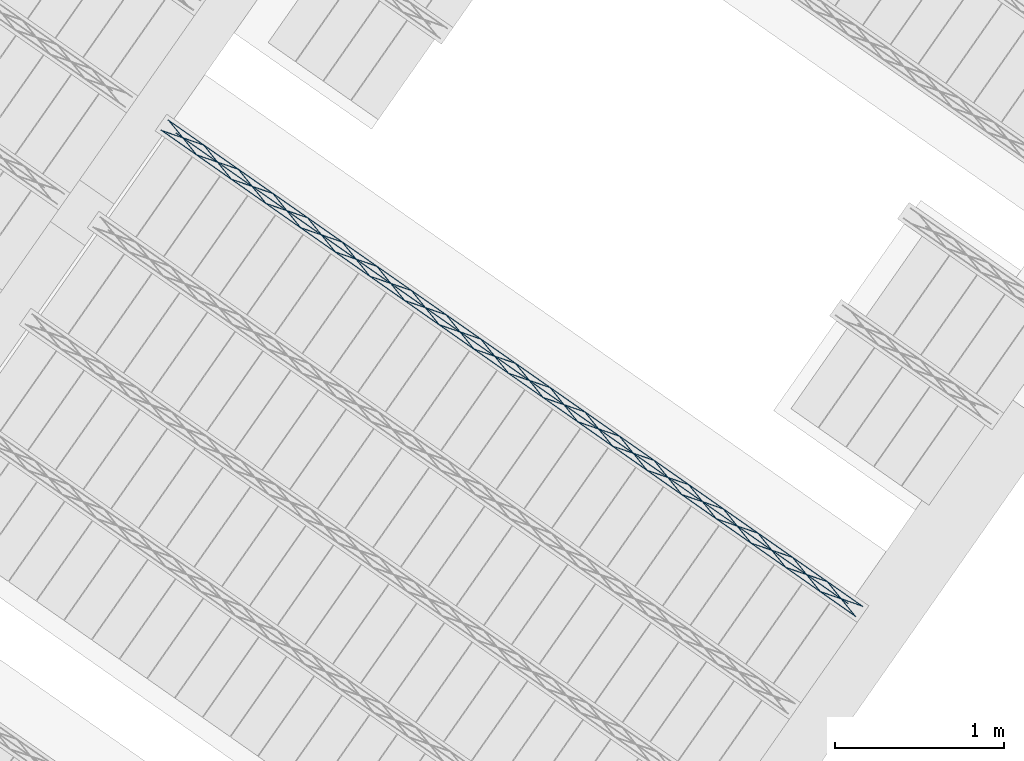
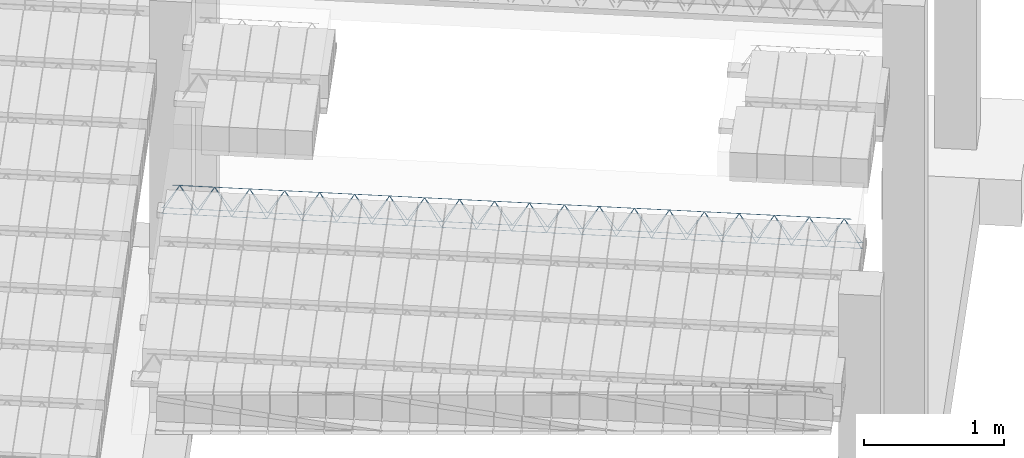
# One storey, part 43 of 80: 1 member.
"""IFC2X3 building model written with IfcOpenShell, lengths in metres."""

from ifc_helpers import new_model, entity, si_unit, converted_unit, derived_unit, direction, frame, origin, origin_2d_with_axis, place, context, subcontext, project, spatial, circle, extrude, type_object, element, save


model = new_model("IFC2X3")

# Units and contexts
model_context = context("Model", 3, precision=1e-05, world=origin(), true_north=direction((6.123031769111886e-17, 1.0)))
body_context = subcontext(model_context, "Body", "Model", "MODEL_VIEW")
ifc_project = project(units=[si_unit("LENGTHUNIT", "METRE"), si_unit("AREAUNIT", "SQUARE_METRE"), si_unit("VOLUMEUNIT", "CUBIC_METRE"), converted_unit("PLANEANGLEUNIT", "DEGREE", entity("IfcPlaneAngleMeasure", 0.017453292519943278), si_unit("PLANEANGLEUNIT", "RADIAN"), dimensions=[0, 0, 0, 0, 0, 0, 0]), si_unit("MASSUNIT", "GRAM", prefix="KILO"), derived_unit("MASSDENSITYUNIT", [(si_unit("MASSUNIT", "GRAM", prefix="KILO"), 1), (si_unit("LENGTHUNIT", "METRE"), -3)]), derived_unit("IONCONCENTRATIONUNIT", [(si_unit("MASSUNIT", "GRAM", prefix="KILO"), 1), (si_unit("LENGTHUNIT", "METRE"), -3)]), derived_unit("MOMENTOFINERTIAUNIT", [(si_unit("LENGTHUNIT", "METRE"), 4)]), si_unit("TIMEUNIT", "SECOND"), si_unit("FREQUENCYUNIT", "HERTZ"), si_unit("THERMODYNAMICTEMPERATUREUNIT", "DEGREE_CELSIUS"), derived_unit("THERMALTRANSMITTANCEUNIT", [(si_unit("MASSUNIT", "GRAM", prefix="KILO"), 1), (si_unit("THERMODYNAMICTEMPERATUREUNIT", "KELVIN"), -1), (si_unit("TIMEUNIT", "SECOND"), -3)]), derived_unit("THERMALCONDUCTANCEUNIT", [(si_unit("MASSUNIT", "GRAM", prefix="KILO"), 1), (si_unit("THERMODYNAMICTEMPERATUREUNIT", "KELVIN"), -1), (si_unit("TIMEUNIT", "SECOND"), -3), (si_unit("LENGTHUNIT", "METRE"), 1)]), derived_unit("VOLUMETRICFLOWRATEUNIT", [(si_unit("LENGTHUNIT", "METRE", prefix="DECI"), 3), (si_unit("TIMEUNIT", "SECOND"), -1)]), derived_unit("MASSFLOWRATEUNIT", [(si_unit("MASSUNIT", "GRAM", prefix="KILO"), 1), (si_unit("TIMEUNIT", "SECOND"), -1)]), derived_unit("ROTATIONALFREQUENCYUNIT", [(si_unit("TIMEUNIT", "SECOND"), -1)]), si_unit("ELECTRICCURRENTUNIT", "AMPERE"), si_unit("ELECTRICVOLTAGEUNIT", "VOLT"), si_unit("POWERUNIT", "WATT"), si_unit("FORCEUNIT", "NEWTON", prefix="KILO"), si_unit("ILLUMINANCEUNIT", "LUX"), si_unit("LUMINOUSFLUXUNIT", "LUMEN"), si_unit("LUMINOUSINTENSITYUNIT", "CANDELA"), si_unit("ENERGYUNIT", "JOULE"), derived_unit("USERDEFINED", [(si_unit("MASSUNIT", "GRAM", prefix="KILO"), -1), (si_unit("LENGTHUNIT", "METRE"), -2), (si_unit("TIMEUNIT", "SECOND"), 3), (si_unit("LUMINOUSFLUXUNIT", "LUMEN"), 1)]), derived_unit("USERDEFINED", [(si_unit("MASSUNIT", "GRAM", prefix="KILO"), 1), (si_unit("TIMEUNIT", "SECOND"), -3), (si_unit("LENGTHUNIT", "METRE"), 3), (si_unit("ELECTRICCURRENTUNIT", "AMPERE"), -2)]), derived_unit("SOUNDPOWERUNIT", [(si_unit("MASSUNIT", "GRAM", prefix="KILO"), 1), (si_unit("TIMEUNIT", "SECOND"), -3), (si_unit("LENGTHUNIT", "METRE"), 2)]), derived_unit("SOUNDPRESSUREUNIT", [(si_unit("MASSUNIT", "GRAM", prefix="KILO"), 1), (si_unit("LENGTHUNIT", "METRE"), -1), (si_unit("TIMEUNIT", "SECOND"), -2)]), derived_unit("LINEARVELOCITYUNIT", [(si_unit("LENGTHUNIT", "METRE"), 1), (si_unit("TIMEUNIT", "SECOND"), -1)]), si_unit("PRESSUREUNIT", "PASCAL"), derived_unit("USERDEFINED", [(si_unit("MASSUNIT", "GRAM", prefix="KILO"), 1), (si_unit("LENGTHUNIT", "METRE"), -2), (si_unit("TIMEUNIT", "SECOND"), -2)]), derived_unit("LINEARFORCEUNIT", [(si_unit("MASSUNIT", "GRAM", prefix="KILO"), 1), (si_unit("TIMEUNIT", "SECOND"), -2)]), derived_unit("PLANARFORCEUNIT", [(si_unit("MASSUNIT", "GRAM", prefix="KILO"), 1), (si_unit("LENGTHUNIT", "METRE"), -1), (si_unit("TIMEUNIT", "SECOND"), -2)]), derived_unit("SPECIFICHEATCAPACITYUNIT", [(si_unit("THERMODYNAMICTEMPERATUREUNIT", "KELVIN"), -1), (si_unit("LENGTHUNIT", "METRE"), 2), (si_unit("TIMEUNIT", "SECOND"), -2)]), derived_unit("HEATFLUXDENSITYUNIT", [(si_unit("MASSUNIT", "GRAM", prefix="KILO"), 1), (si_unit("TIMEUNIT", "SECOND"), -3)]), derived_unit("HEATINGVALUEUNIT", [(si_unit("LENGTHUNIT", "METRE"), 2), (si_unit("TIMEUNIT", "SECOND"), -2)]), derived_unit("VAPORPERMEABILITYUNIT", [(si_unit("LENGTHUNIT", "METRE"), -1), (si_unit("TIMEUNIT", "SECOND"), 1)]), derived_unit("DYNAMICVISCOSITYUNIT", [(si_unit("MASSUNIT", "GRAM", prefix="KILO"), 1), (si_unit("TIMEUNIT", "SECOND"), -1), (si_unit("LENGTHUNIT", "METRE"), -1)]), derived_unit("THERMALEXPANSIONCOEFFICIENTUNIT", [(si_unit("THERMODYNAMICTEMPERATUREUNIT", "KELVIN"), -1)]), derived_unit("MODULUSOFELASTICITYUNIT", [(si_unit("MASSUNIT", "GRAM", prefix="KILO"), 1), (si_unit("LENGTHUNIT", "METRE"), -1), (si_unit("TIMEUNIT", "SECOND"), -2)]), derived_unit("ISOTHERMALMOISTURECAPACITYUNIT", [(si_unit("MASSUNIT", "GRAM", prefix="KILO"), -1), (si_unit("LENGTHUNIT", "METRE"), 3)]), derived_unit("MOISTUREDIFFUSIVITYUNIT", [(si_unit("TIMEUNIT", "SECOND"), -1), (si_unit("LENGTHUNIT", "METRE"), 2)]), derived_unit("MASSPERLENGTHUNIT", [(si_unit("MASSUNIT", "GRAM", prefix="KILO"), 1), (si_unit("LENGTHUNIT", "METRE"), -1)]), derived_unit("THERMALRESISTANCEUNIT", [(si_unit("MASSUNIT", "GRAM", prefix="KILO"), -1), (si_unit("TIMEUNIT", "SECOND"), 3), (si_unit("THERMODYNAMICTEMPERATUREUNIT", "KELVIN"), 1)]), derived_unit("ACCELERATIONUNIT", [(si_unit("LENGTHUNIT", "METRE"), 1), (si_unit("TIMEUNIT", "SECOND"), -2)]), derived_unit("ANGULARVELOCITYUNIT", [(si_unit("TIMEUNIT", "SECOND"), -1), (si_unit("PLANEANGLEUNIT", "RADIAN"), 1)]), derived_unit("LINEARSTIFFNESSUNIT", [(si_unit("MASSUNIT", "GRAM", prefix="KILO"), 1), (si_unit("TIMEUNIT", "SECOND"), -2)]), derived_unit("WARPINGCONSTANTUNIT", [(si_unit("LENGTHUNIT", "METRE"), 6)]), derived_unit("LINEARMOMENTUNIT", [(si_unit("MASSUNIT", "GRAM", prefix="KILO"), 1), (si_unit("LENGTHUNIT", "METRE"), 1), (si_unit("TIMEUNIT", "SECOND"), -2)]), derived_unit("TORQUEUNIT", [(si_unit("MASSUNIT", "GRAM", prefix="KILO"), 1), (si_unit("LENGTHUNIT", "METRE"), 2), (si_unit("TIMEUNIT", "SECOND"), -2)])], contexts=[model_context])

# Site, building, storey
site_placement = place(None, origin())
site = spatial("IfcSite", under=ifc_project, at=site_placement, Name="Default", CompositionType="ELEMENT")
building_placement = place(site_placement, origin())
building = spatial("IfcBuilding", under=site, at=building_placement, CompositionType="ELEMENT")
storey_placement = place(building_placement, frame((0.0, 0.0, 95.94)))
storey = spatial("IfcBuildingStorey", under=building, at=storey_placement, Name="PB", CompositionType="ELEMENT", Elevation=95.94)

# Member
member_type = type_object("IfcMemberType", Name="Celosía (Vigueta 4 - Paño 6)", PredefinedType="NOTDEFINED")
member_placement = place(storey_placement, origin())
element("IfcMember", 1, at=member_placement, inside=storey, type_object=member_type, Name="Celosía (Vigueta 4 - Paño 6)", context=body_context, shape_type="SweptSolid", body=[
    extrude(circle(Radius=0.0025, at=origin_2d_with_axis()), frame((4.563415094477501, 5.501805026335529, 3.3049999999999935), z_axis=(0.8191520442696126, -0.5735764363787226, 0.0), x_axis=(-0.5735764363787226, -0.8191520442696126, 0.0)), (0.0, 0.0, 1.0), 5.017554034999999),
    extrude(circle(Radius=0.0025, at=origin_2d_with_axis()), frame((4.65268996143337, 5.483241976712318, 3.5299999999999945), z_axis=(0.8191520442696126, -0.5735764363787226, 0.0), x_axis=(-0.5735764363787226, -0.8191520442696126, 0.0)), (0.0, 0.0, 1.0), 4.849999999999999),
    extrude(circle(Radius=0.0025, at=origin_2d_with_axis()), frame((8.666365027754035, 2.6288885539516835, 3.3049999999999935), z_axis=(-0.3145304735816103, 0.389334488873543, 0.8657304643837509), x_axis=(-0.7778747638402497, -0.6284193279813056, 0.0)), (0.0, 0.0, 1.0), 0.2598961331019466),
    extrude(circle(Radius=0.0025, at=origin_2d_with_axis()), frame((8.461577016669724, 2.772282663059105, 3.3049999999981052), z_axis=(0.47343050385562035, -0.1624017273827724, 0.8657304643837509), x_axis=(-0.3244721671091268, -0.9458952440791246, 0.0)), (0.0, 0.0, 1.0), 0.25989613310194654),
    extrude(circle(Radius=0.0025, at=origin_2d_with_axis()), frame((8.46157701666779, 2.7722826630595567, 3.3049999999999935), z_axis=(-0.3145304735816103, 0.389334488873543, 0.8657304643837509), x_axis=(-0.7778747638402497, -0.6284193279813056, 0.0)), (0.0, 0.0, 1.0), 0.2598961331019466),
    extrude(circle(Radius=0.0025, at=origin_2d_with_axis()), frame((8.25678900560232, 2.9156767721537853, 3.3049999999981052), z_axis=(0.47343050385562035, -0.1624017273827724, 0.8657304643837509), x_axis=(-0.3244721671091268, -0.9458952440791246, 0.0)), (0.0, 0.0, 1.0), 0.25989613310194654),
    extrude(circle(Radius=0.0025, at=origin_2d_with_axis()), frame((8.256789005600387, 2.9156767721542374, 3.3049999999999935), z_axis=(-0.3145304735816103, 0.389334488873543, 0.8657304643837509), x_axis=(-0.7778747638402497, -0.6284193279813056, 0.0)), (0.0, 0.0, 1.0), 0.2598961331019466),
    extrude(circle(Radius=0.0025, at=origin_2d_with_axis()), frame((8.052000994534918, 3.059070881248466, 3.3049999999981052), z_axis=(0.47343050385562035, -0.1624017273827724, 0.8657304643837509), x_axis=(-0.3244721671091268, -0.9458952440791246, 0.0)), (0.0, 0.0, 1.0), 0.25989613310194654),
    extrude(circle(Radius=0.0025, at=origin_2d_with_axis()), frame((8.052000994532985, 3.0590708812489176, 3.3049999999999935), z_axis=(-0.3145304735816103, 0.389334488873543, 0.8657304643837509), x_axis=(-0.7778747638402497, -0.6284193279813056, 0.0)), (0.0, 0.0, 1.0), 0.2598961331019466),
    extrude(circle(Radius=0.0025, at=origin_2d_with_axis()), frame((7.847212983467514, 3.202464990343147, 3.3049999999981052), z_axis=(0.47343050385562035, -0.1624017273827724, 0.8657304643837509), x_axis=(-0.3244721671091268, -0.9458952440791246, 0.0)), (0.0, 0.0, 1.0), 0.25989613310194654),
    extrude(circle(Radius=0.0025, at=origin_2d_with_axis()), frame((7.847212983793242, 3.2024649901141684, 3.3049999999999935), z_axis=(-0.3145304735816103, 0.389334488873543, 0.8657304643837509), x_axis=(-0.7778747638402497, -0.6284193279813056, 0.0)), (0.0, 0.0, 1.0), 0.2598961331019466),
    extrude(circle(Radius=0.0025, at=origin_2d_with_axis()), frame((7.642424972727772, 3.345859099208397, 3.3049999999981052), z_axis=(0.47343050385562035, -0.1624017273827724, 0.8657304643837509), x_axis=(-0.3244721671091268, -0.9458952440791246, 0.0)), (0.0, 0.0, 1.0), 0.25989613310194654),
    extrude(circle(Radius=0.0025, at=origin_2d_with_axis()), frame((7.6424249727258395, 3.3458590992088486, 3.3049999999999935), z_axis=(-0.3145304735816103, 0.389334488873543, 0.8657304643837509), x_axis=(-0.7778747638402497, -0.6284193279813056, 0.0)), (0.0, 0.0, 1.0), 0.2598961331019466),
    extrude(circle(Radius=0.0025, at=origin_2d_with_axis()), frame((7.437636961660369, 3.489253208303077, 3.3049999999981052), z_axis=(0.47343050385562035, -0.1624017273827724, 0.8657304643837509), x_axis=(-0.3244721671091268, -0.9458952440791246, 0.0)), (0.0, 0.0, 1.0), 0.25989613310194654),
    extrude(circle(Radius=0.0025, at=origin_2d_with_axis()), frame((7.437636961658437, 3.4892532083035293, 3.3049999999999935), z_axis=(-0.3145304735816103, 0.389334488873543, 0.8657304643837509), x_axis=(-0.7778747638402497, -0.6284193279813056, 0.0)), (0.0, 0.0, 1.0), 0.2598961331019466),
    extrude(circle(Radius=0.0025, at=origin_2d_with_axis()), frame((7.232848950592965, 3.6326473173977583, 3.3049999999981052), z_axis=(0.47343050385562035, -0.1624017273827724, 0.8657304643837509), x_axis=(-0.3244721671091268, -0.9458952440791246, 0.0)), (0.0, 0.0, 1.0), 0.25989613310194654),
    extrude(circle(Radius=0.0025, at=origin_2d_with_axis()), frame((7.232848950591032, 3.6326473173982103, 3.3049999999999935), z_axis=(-0.3145304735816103, 0.389334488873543, 0.8657304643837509), x_axis=(-0.7778747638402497, -0.6284193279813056, 0.0)), (0.0, 0.0, 1.0), 0.2598961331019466),
    extrude(circle(Radius=0.0025, at=origin_2d_with_axis()), frame((7.028060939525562, 3.776041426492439, 3.3049999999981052), z_axis=(0.47343050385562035, -0.1624017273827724, 0.8657304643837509), x_axis=(-0.3244721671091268, -0.9458952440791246, 0.0)), (0.0, 0.0, 1.0), 0.25989613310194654),
    extrude(circle(Radius=0.0025, at=origin_2d_with_axis()), frame((7.02806093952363, 3.7760414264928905, 3.3049999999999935), z_axis=(-0.3145304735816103, 0.389334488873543, 0.8657304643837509), x_axis=(-0.7778747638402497, -0.6284193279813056, 0.0)), (0.0, 0.0, 1.0), 0.2598961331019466),
    extrude(circle(Radius=0.0025, at=origin_2d_with_axis()), frame((6.8232729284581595, 3.9194355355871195, 3.3049999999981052), z_axis=(0.47343050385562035, -0.1624017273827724, 0.8657304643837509), x_axis=(-0.3244721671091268, -0.9458952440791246, 0.0)), (0.0, 0.0, 1.0), 0.25989613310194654),
    extrude(circle(Radius=0.0025, at=origin_2d_with_axis()), frame((6.823272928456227, 3.9194355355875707, 3.3049999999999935), z_axis=(-0.3145304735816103, 0.389334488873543, 0.8657304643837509), x_axis=(-0.7778747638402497, -0.6284193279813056, 0.0)), (0.0, 0.0, 1.0), 0.2598961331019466),
    extrude(circle(Radius=0.0025, at=origin_2d_with_axis()), frame((6.618484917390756, 4.0628296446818, 3.3049999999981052), z_axis=(0.47343050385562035, -0.1624017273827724, 0.8657304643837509), x_axis=(-0.3244721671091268, -0.9458952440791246, 0.0)), (0.0, 0.0, 1.0), 0.25989613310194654),
    extrude(circle(Radius=0.0025, at=origin_2d_with_axis()), frame((6.618484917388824, 4.062829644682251, 3.3049999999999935), z_axis=(-0.3145304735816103, 0.389334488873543, 0.8657304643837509), x_axis=(-0.7778747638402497, -0.6284193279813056, 0.0)), (0.0, 0.0, 1.0), 0.2598961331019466),
    extrude(circle(Radius=0.0025, at=origin_2d_with_axis()), frame((6.413696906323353, 4.206223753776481, 3.3049999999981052), z_axis=(0.47343050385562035, -0.1624017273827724, 0.8657304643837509), x_axis=(-0.3244721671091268, -0.9458952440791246, 0.0)), (0.0, 0.0, 1.0), 0.25989613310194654),
    extrude(circle(Radius=0.0025, at=origin_2d_with_axis()), frame((6.413696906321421, 4.206223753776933, 3.3049999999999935), z_axis=(-0.3145304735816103, 0.389334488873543, 0.8657304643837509), x_axis=(-0.7778747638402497, -0.6284193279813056, 0.0)), (0.0, 0.0, 1.0), 0.2598961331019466),
    extrude(circle(Radius=0.0025, at=origin_2d_with_axis()), frame((6.20890889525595, 4.3496178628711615, 3.3049999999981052), z_axis=(0.47343050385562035, -0.1624017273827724, 0.8657304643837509), x_axis=(-0.3244721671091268, -0.9458952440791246, 0.0)), (0.0, 0.0, 1.0), 0.25989613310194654),
    extrude(circle(Radius=0.0025, at=origin_2d_with_axis()), frame((6.208908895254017, 4.349617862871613, 3.3049999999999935), z_axis=(-0.3145304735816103, 0.389334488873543, 0.8657304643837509), x_axis=(-0.7778747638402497, -0.6284193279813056, 0.0)), (0.0, 0.0, 1.0), 0.2598961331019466),
    extrude(circle(Radius=0.0025, at=origin_2d_with_axis()), frame((6.004120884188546, 4.493011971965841, 3.3049999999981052), z_axis=(0.47343050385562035, -0.1624017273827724, 0.8657304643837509), x_axis=(-0.3244721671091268, -0.9458952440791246, 0.0)), (0.0, 0.0, 1.0), 0.25989613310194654),
    extrude(circle(Radius=0.0025, at=origin_2d_with_axis()), frame((6.004120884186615, 4.493011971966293, 3.3049999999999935), z_axis=(-0.3145304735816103, 0.389334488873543, 0.8657304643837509), x_axis=(-0.7778747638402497, -0.6284193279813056, 0.0)), (0.0, 0.0, 1.0), 0.2598961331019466),
    extrude(circle(Radius=0.0025, at=origin_2d_with_axis()), frame((5.799332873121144, 4.636406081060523, 3.3049999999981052), z_axis=(0.47343050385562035, -0.1624017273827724, 0.8657304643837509), x_axis=(-0.3244721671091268, -0.9458952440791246, 0.0)), (0.0, 0.0, 1.0), 0.25989613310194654),
    extrude(circle(Radius=0.0025, at=origin_2d_with_axis()), frame((5.799332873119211, 4.636406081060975, 3.3049999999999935), z_axis=(-0.3145304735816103, 0.389334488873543, 0.8657304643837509), x_axis=(-0.7778747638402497, -0.6284193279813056, 0.0)), (0.0, 0.0, 1.0), 0.2598961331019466),
    extrude(circle(Radius=0.0025, at=origin_2d_with_axis()), frame((5.59454486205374, 4.779800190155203, 3.3049999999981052), z_axis=(0.47343050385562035, -0.1624017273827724, 0.8657304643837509), x_axis=(-0.3244721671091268, -0.9458952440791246, 0.0)), (0.0, 0.0, 1.0), 0.25989613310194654),
    extrude(circle(Radius=0.0025, at=origin_2d_with_axis()), frame((5.594544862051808, 4.779800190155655, 3.3049999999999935), z_axis=(-0.3145304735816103, 0.389334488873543, 0.8657304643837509), x_axis=(-0.7778747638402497, -0.6284193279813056, 0.0)), (0.0, 0.0, 1.0), 0.2598961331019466),
    extrude(circle(Radius=0.0025, at=origin_2d_with_axis()), frame((5.3897568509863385, 4.923194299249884, 3.3049999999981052), z_axis=(0.47343050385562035, -0.1624017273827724, 0.8657304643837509), x_axis=(-0.3244721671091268, -0.9458952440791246, 0.0)), (0.0, 0.0, 1.0), 0.25989613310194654),
    extrude(circle(Radius=0.0025, at=origin_2d_with_axis()), frame((5.389756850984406, 4.923194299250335, 3.3049999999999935), z_axis=(-0.3145304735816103, 0.389334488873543, 0.8657304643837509), x_axis=(-0.7778747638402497, -0.6284193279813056, 0.0)), (0.0, 0.0, 1.0), 0.2598961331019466),
    extrude(circle(Radius=0.0025, at=origin_2d_with_axis()), frame((5.184968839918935, 5.066588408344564, 3.3049999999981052), z_axis=(0.47343050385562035, -0.1624017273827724, 0.8657304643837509), x_axis=(-0.3244721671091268, -0.9458952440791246, 0.0)), (0.0, 0.0, 1.0), 0.25989613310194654),
    extrude(circle(Radius=0.0025, at=origin_2d_with_axis()), frame((5.184968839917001, 5.066588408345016, 3.3049999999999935), z_axis=(-0.3145304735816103, 0.389334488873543, 0.8657304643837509), x_axis=(-0.7778747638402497, -0.6284193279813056, 0.0)), (0.0, 0.0, 1.0), 0.2598961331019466),
    extrude(circle(Radius=0.0025, at=origin_2d_with_axis()), frame((4.98018082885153, 5.209982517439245, 3.3049999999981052), z_axis=(0.47343050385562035, -0.1624017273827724, 0.8657304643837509), x_axis=(-0.3244721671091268, -0.9458952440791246, 0.0)), (0.0, 0.0, 1.0), 0.25989613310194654),
    extrude(circle(Radius=0.0025, at=origin_2d_with_axis()), frame((4.980180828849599, 5.2099825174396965, 3.3049999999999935), z_axis=(-0.3145304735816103, 0.389334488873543, 0.8657304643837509), x_axis=(-0.7778747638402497, -0.6284193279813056, 0.0)), (0.0, 0.0, 1.0), 0.2598961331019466),
    extrude(circle(Radius=0.0025, at=origin_2d_with_axis()), frame((4.7753928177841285, 5.353376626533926, 3.3049999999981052), z_axis=(0.47343050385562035, -0.1624017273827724, 0.8657304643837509), x_axis=(-0.3244721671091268, -0.9458952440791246, 0.0)), (0.0, 0.0, 1.0), 0.25989613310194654),
    extrude(circle(Radius=0.0025, at=origin_2d_with_axis()), frame((4.775392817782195, 5.353376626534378, 3.3049999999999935), z_axis=(-0.3145304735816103, 0.389334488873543, 0.8657304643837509), x_axis=(-0.7778747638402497, -0.6284193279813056, 0.0)), (0.0, 0.0, 1.0), 0.2598961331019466),
    extrude(circle(Radius=0.0025, at=origin_2d_with_axis()), frame((4.570604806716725, 5.496770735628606, 3.3049999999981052), z_axis=(0.47343050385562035, -0.1624017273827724, 0.8657304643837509), x_axis=(-0.3244721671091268, -0.9458952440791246, 0.0)), (0.0, 0.0, 1.0), 0.25989613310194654),
    extrude(circle(Radius=0.0025, at=origin_2d_with_axis()), frame((8.714852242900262, 2.682833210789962, 3.3049999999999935), z_axis=(-0.8191520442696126, 0.5735764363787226, 0.0), x_axis=(-0.5735764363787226, -0.8191520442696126, 0.0)), (0.0, 0.0, 1.0), 5.017554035),
    extrude(circle(Radius=0.0025, at=origin_2d_with_axis()), frame((8.707662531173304, 2.687867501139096, 3.3049999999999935), z_axis=(-0.47343050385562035, 0.1624017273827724, 0.8657304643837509), x_axis=(-0.3244721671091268, -0.9458952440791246, 0.0)), (0.0, 0.0, 1.0), 0.25989613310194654),
    extrude(circle(Radius=0.0025, at=origin_2d_with_axis()), frame((8.502874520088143, 2.8312616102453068, 3.3049999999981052), z_axis=(0.3145304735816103, -0.389334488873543, 0.8657304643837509), x_axis=(-0.7778747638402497, -0.6284193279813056, 0.0)), (0.0, 0.0, 1.0), 0.2598961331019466),
    extrude(circle(Radius=0.0025, at=origin_2d_with_axis()), frame((8.50287452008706, 2.8312616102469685, 3.3049999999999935), z_axis=(-0.47343050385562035, 0.1624017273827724, 0.8657304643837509), x_axis=(-0.3244721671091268, -0.9458952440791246, 0.0)), (0.0, 0.0, 1.0), 0.25989613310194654),
    extrude(circle(Radius=0.0025, at=origin_2d_with_axis()), frame((8.298086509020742, 2.974655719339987, 3.3049999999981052), z_axis=(0.3145304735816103, -0.389334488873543, 0.8657304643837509), x_axis=(-0.7778747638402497, -0.6284193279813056, 0.0)), (0.0, 0.0, 1.0), 0.2598961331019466),
    extrude(circle(Radius=0.0025, at=origin_2d_with_axis()), frame((8.298086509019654, 2.974655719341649, 3.3049999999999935), z_axis=(-0.47343050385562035, 0.1624017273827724, 0.8657304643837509), x_axis=(-0.3244721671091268, -0.9458952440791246, 0.0)), (0.0, 0.0, 1.0), 0.25989613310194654),
    extrude(circle(Radius=0.0025, at=origin_2d_with_axis()), frame((8.093298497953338, 3.118049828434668, 3.3049999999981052), z_axis=(0.3145304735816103, -0.389334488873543, 0.8657304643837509), x_axis=(-0.7778747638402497, -0.6284193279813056, 0.0)), (0.0, 0.0, 1.0), 0.2598961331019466),
    extrude(circle(Radius=0.0025, at=origin_2d_with_axis()), frame((8.093298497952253, 3.11804982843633, 3.3049999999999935), z_axis=(-0.47343050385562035, 0.1624017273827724, 0.8657304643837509), x_axis=(-0.3244721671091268, -0.9458952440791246, 0.0)), (0.0, 0.0, 1.0), 0.25989613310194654),
    extrude(circle(Radius=0.0025, at=origin_2d_with_axis()), frame((7.888510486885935, 3.2614439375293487, 3.3049999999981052), z_axis=(0.3145304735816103, -0.389334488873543, 0.8657304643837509), x_axis=(-0.7778747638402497, -0.6284193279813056, 0.0)), (0.0, 0.0, 1.0), 0.2598961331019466),
    extrude(circle(Radius=0.0025, at=origin_2d_with_axis()), frame((7.88851048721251, 3.26144393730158, 3.3049999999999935), z_axis=(-0.47343050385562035, 0.1624017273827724, 0.8657304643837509), x_axis=(-0.3244721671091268, -0.9458952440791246, 0.0)), (0.0, 0.0, 1.0), 0.25989613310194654),
    extrude(circle(Radius=0.0025, at=origin_2d_with_axis()), frame((7.683722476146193, 3.4048380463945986, 3.3049999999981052), z_axis=(0.3145304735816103, -0.389334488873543, 0.8657304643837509), x_axis=(-0.7778747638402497, -0.6284193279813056, 0.0)), (0.0, 0.0, 1.0), 0.2598961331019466),
    extrude(circle(Radius=0.0025, at=origin_2d_with_axis()), frame((7.683722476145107, 3.4048380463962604, 3.3049999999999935), z_axis=(-0.47343050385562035, 0.1624017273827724, 0.8657304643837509), x_axis=(-0.3244721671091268, -0.9458952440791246, 0.0)), (0.0, 0.0, 1.0), 0.25989613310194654),
    extrude(circle(Radius=0.0025, at=origin_2d_with_axis()), frame((7.4789344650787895, 3.5482321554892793, 3.3049999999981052), z_axis=(0.3145304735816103, -0.389334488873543, 0.8657304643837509), x_axis=(-0.7778747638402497, -0.6284193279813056, 0.0)), (0.0, 0.0, 1.0), 0.2598961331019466),
    extrude(circle(Radius=0.0025, at=origin_2d_with_axis()), frame((7.478934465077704, 3.5482321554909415, 3.3049999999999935), z_axis=(-0.47343050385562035, 0.1624017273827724, 0.8657304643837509), x_axis=(-0.3244721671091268, -0.9458952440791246, 0.0)), (0.0, 0.0, 1.0), 0.25989613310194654),
    extrude(circle(Radius=0.0025, at=origin_2d_with_axis()), frame((7.274146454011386, 3.69162626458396, 3.3049999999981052), z_axis=(0.3145304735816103, -0.389334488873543, 0.8657304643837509), x_axis=(-0.7778747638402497, -0.6284193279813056, 0.0)), (0.0, 0.0, 1.0), 0.2598961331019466),
    extrude(circle(Radius=0.0025, at=origin_2d_with_axis()), frame((7.2741464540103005, 3.691626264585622, 3.3049999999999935), z_axis=(-0.47343050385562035, 0.1624017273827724, 0.8657304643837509), x_axis=(-0.3244721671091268, -0.9458952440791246, 0.0)), (0.0, 0.0, 1.0), 0.25989613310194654),
    extrude(circle(Radius=0.0025, at=origin_2d_with_axis()), frame((7.069358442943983, 3.835020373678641, 3.3049999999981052), z_axis=(0.3145304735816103, -0.389334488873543, 0.8657304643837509), x_axis=(-0.7778747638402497, -0.6284193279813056, 0.0)), (0.0, 0.0, 1.0), 0.2598961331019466),
    extrude(circle(Radius=0.0025, at=origin_2d_with_axis()), frame((7.069358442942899, 3.8350203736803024, 3.3049999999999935), z_axis=(-0.47343050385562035, 0.1624017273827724, 0.8657304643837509), x_axis=(-0.3244721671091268, -0.9458952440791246, 0.0)), (0.0, 0.0, 1.0), 0.25989613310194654),
    extrude(circle(Radius=0.0025, at=origin_2d_with_axis()), frame((6.86457043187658, 3.978414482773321, 3.3049999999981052), z_axis=(0.3145304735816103, -0.389334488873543, 0.8657304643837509), x_axis=(-0.7778747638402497, -0.6284193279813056, 0.0)), (0.0, 0.0, 1.0), 0.2598961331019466),
    extrude(circle(Radius=0.0025, at=origin_2d_with_axis()), frame((6.864570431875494, 3.978414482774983, 3.3049999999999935), z_axis=(-0.47343050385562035, 0.1624017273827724, 0.8657304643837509), x_axis=(-0.3244721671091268, -0.9458952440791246, 0.0)), (0.0, 0.0, 1.0), 0.25989613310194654),
    extrude(circle(Radius=0.0025, at=origin_2d_with_axis()), frame((6.659782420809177, 4.121808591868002, 3.3049999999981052), z_axis=(0.3145304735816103, -0.389334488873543, 0.8657304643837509), x_axis=(-0.7778747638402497, -0.6284193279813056, 0.0)), (0.0, 0.0, 1.0), 0.2598961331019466),
    extrude(circle(Radius=0.0025, at=origin_2d_with_axis()), frame((6.659782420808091, 4.121808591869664, 3.3049999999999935), z_axis=(-0.47343050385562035, 0.1624017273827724, 0.8657304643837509), x_axis=(-0.3244721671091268, -0.9458952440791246, 0.0)), (0.0, 0.0, 1.0), 0.25989613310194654),
    extrude(circle(Radius=0.0025, at=origin_2d_with_axis()), frame((6.454994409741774, 4.265202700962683, 3.3049999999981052), z_axis=(0.3145304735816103, -0.389334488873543, 0.8657304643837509), x_axis=(-0.7778747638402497, -0.6284193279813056, 0.0)), (0.0, 0.0, 1.0), 0.2598961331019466),
    extrude(circle(Radius=0.0025, at=origin_2d_with_axis()), frame((6.454994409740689, 4.265202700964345, 3.3049999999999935), z_axis=(-0.47343050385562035, 0.1624017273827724, 0.8657304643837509), x_axis=(-0.3244721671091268, -0.9458952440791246, 0.0)), (0.0, 0.0, 1.0), 0.25989613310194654),
    extrude(circle(Radius=0.0025, at=origin_2d_with_axis()), frame((6.250206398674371, 4.408596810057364, 3.3049999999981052), z_axis=(0.3145304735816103, -0.389334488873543, 0.8657304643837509), x_axis=(-0.7778747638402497, -0.6284193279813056, 0.0)), (0.0, 0.0, 1.0), 0.2598961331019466),
    extrude(circle(Radius=0.0025, at=origin_2d_with_axis()), frame((6.250206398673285, 4.4085968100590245, 3.3049999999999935), z_axis=(-0.47343050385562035, 0.1624017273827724, 0.8657304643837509), x_axis=(-0.3244721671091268, -0.9458952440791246, 0.0)), (0.0, 0.0, 1.0), 0.25989613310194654),
    extrude(circle(Radius=0.0025, at=origin_2d_with_axis()), frame((6.045418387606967, 4.551990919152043, 3.3049999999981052), z_axis=(0.3145304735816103, -0.389334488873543, 0.8657304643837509), x_axis=(-0.7778747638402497, -0.6284193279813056, 0.0)), (0.0, 0.0, 1.0), 0.2598961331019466),
    extrude(circle(Radius=0.0025, at=origin_2d_with_axis()), frame((6.045418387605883, 4.551990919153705, 3.3049999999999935), z_axis=(-0.47343050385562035, 0.1624017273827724, 0.8657304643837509), x_axis=(-0.3244721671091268, -0.9458952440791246, 0.0)), (0.0, 0.0, 1.0), 0.25989613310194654),
    extrude(circle(Radius=0.0025, at=origin_2d_with_axis()), frame((5.840630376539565, 4.695385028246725, 3.3049999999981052), z_axis=(0.3145304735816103, -0.389334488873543, 0.8657304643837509), x_axis=(-0.7778747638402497, -0.6284193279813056, 0.0)), (0.0, 0.0, 1.0), 0.2598961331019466),
    extrude(circle(Radius=0.0025, at=origin_2d_with_axis()), frame((5.840630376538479, 4.695385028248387, 3.3049999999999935), z_axis=(-0.47343050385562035, 0.1624017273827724, 0.8657304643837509), x_axis=(-0.3244721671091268, -0.9458952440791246, 0.0)), (0.0, 0.0, 1.0), 0.25989613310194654),
    extrude(circle(Radius=0.0025, at=origin_2d_with_axis()), frame((5.635842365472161, 4.8387791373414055, 3.3049999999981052), z_axis=(0.3145304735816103, -0.389334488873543, 0.8657304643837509), x_axis=(-0.7778747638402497, -0.6284193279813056, 0.0)), (0.0, 0.0, 1.0), 0.2598961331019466),
    extrude(circle(Radius=0.0025, at=origin_2d_with_axis()), frame((5.635842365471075, 4.838779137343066, 3.3049999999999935), z_axis=(-0.47343050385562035, 0.1624017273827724, 0.8657304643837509), x_axis=(-0.3244721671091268, -0.9458952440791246, 0.0)), (0.0, 0.0, 1.0), 0.25989613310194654),
    extrude(circle(Radius=0.0025, at=origin_2d_with_axis()), frame((5.431054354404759, 4.982173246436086, 3.3049999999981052), z_axis=(0.3145304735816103, -0.389334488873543, 0.8657304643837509), x_axis=(-0.7778747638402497, -0.6284193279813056, 0.0)), (0.0, 0.0, 1.0), 0.2598961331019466),
    extrude(circle(Radius=0.0025, at=origin_2d_with_axis()), frame((5.431054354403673, 4.982173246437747, 3.3049999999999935), z_axis=(-0.47343050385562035, 0.1624017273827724, 0.8657304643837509), x_axis=(-0.3244721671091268, -0.9458952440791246, 0.0)), (0.0, 0.0, 1.0), 0.25989613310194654),
    extrude(circle(Radius=0.0025, at=origin_2d_with_axis()), frame((5.226266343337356, 5.125567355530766, 3.3049999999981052), z_axis=(0.3145304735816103, -0.389334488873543, 0.8657304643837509), x_axis=(-0.7778747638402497, -0.6284193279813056, 0.0)), (0.0, 0.0, 1.0), 0.2598961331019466),
    extrude(circle(Radius=0.0025, at=origin_2d_with_axis()), frame((5.2262663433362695, 5.125567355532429, 3.3049999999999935), z_axis=(-0.47343050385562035, 0.1624017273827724, 0.8657304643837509), x_axis=(-0.3244721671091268, -0.9458952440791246, 0.0)), (0.0, 0.0, 1.0), 0.25989613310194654),
    extrude(circle(Radius=0.0025, at=origin_2d_with_axis()), frame((5.021478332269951, 5.2689614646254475, 3.3049999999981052), z_axis=(0.3145304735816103, -0.389334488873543, 0.8657304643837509), x_axis=(-0.7778747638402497, -0.6284193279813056, 0.0)), (0.0, 0.0, 1.0), 0.2598961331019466),
    extrude(circle(Radius=0.0025, at=origin_2d_with_axis()), frame((5.021478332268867, 5.268961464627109, 3.3049999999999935), z_axis=(-0.47343050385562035, 0.1624017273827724, 0.8657304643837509), x_axis=(-0.3244721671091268, -0.9458952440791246, 0.0)), (0.0, 0.0, 1.0), 0.25989613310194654),
    extrude(circle(Radius=0.0025, at=origin_2d_with_axis()), frame((4.816690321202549, 5.412355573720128, 3.3049999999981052), z_axis=(0.3145304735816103, -0.389334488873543, 0.8657304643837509), x_axis=(-0.7778747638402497, -0.6284193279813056, 0.0)), (0.0, 0.0, 1.0), 0.2598961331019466),
    extrude(circle(Radius=0.0025, at=origin_2d_with_axis()), frame((4.816690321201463, 5.412355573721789, 3.3049999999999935), z_axis=(-0.47343050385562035, 0.1624017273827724, 0.8657304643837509), x_axis=(-0.3244721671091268, -0.9458952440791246, 0.0)), (0.0, 0.0, 1.0), 0.25989613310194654),
    extrude(circle(Radius=0.0025, at=origin_2d_with_axis()), frame((4.611902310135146, 5.555749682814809, 3.3049999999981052), z_axis=(0.3145304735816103, -0.389334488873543, 0.8657304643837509), x_axis=(-0.7778747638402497, -0.6284193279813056, 0.0)), (0.0, 0.0, 1.0), 0.2598961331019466),
])

save(model, "model.ifc")
